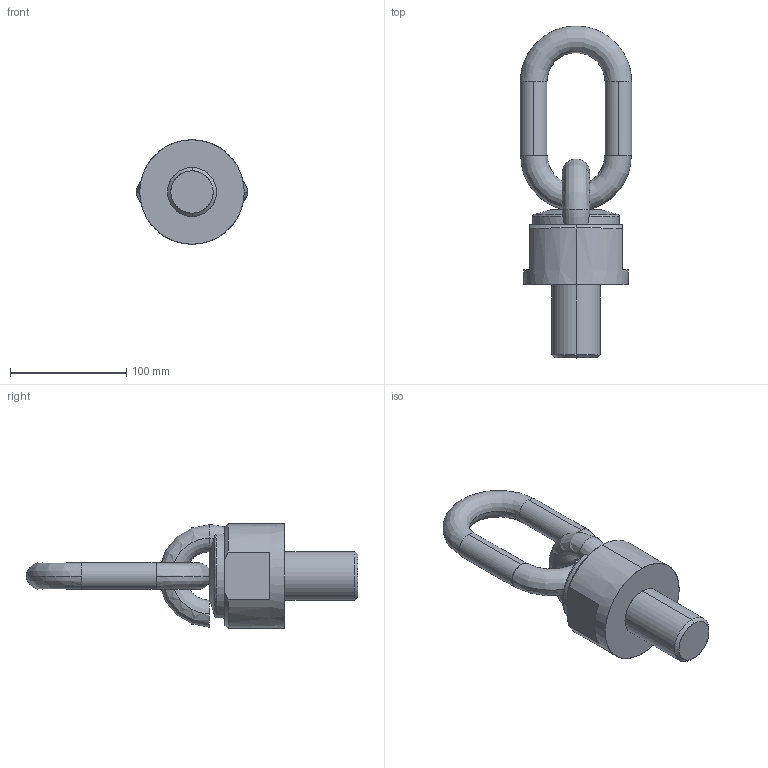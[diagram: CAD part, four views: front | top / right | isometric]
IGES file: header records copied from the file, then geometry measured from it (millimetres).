
Start section: START RECORD GO HERE.
Global section: file name: C800X1254263.igs; native system: DASSAULT SYSTEMES CATIA V5 R20 - www.3ds.com; preprocessor: CATIA Version 5 Release 20 ; author: Utente; organization: NB04-ASUS; date: 20200412.221914; units: millimetre
Bounding box: 96 x 286 x 90 mm (x, y, z)
Surface area: 69088.2 mm2 (no closed solid volume)
Topology: 0 solids, 0 shells, 42 faces, 234 edges, 234 vertices
Faces by surface type: revolution 30, extrusion 12
